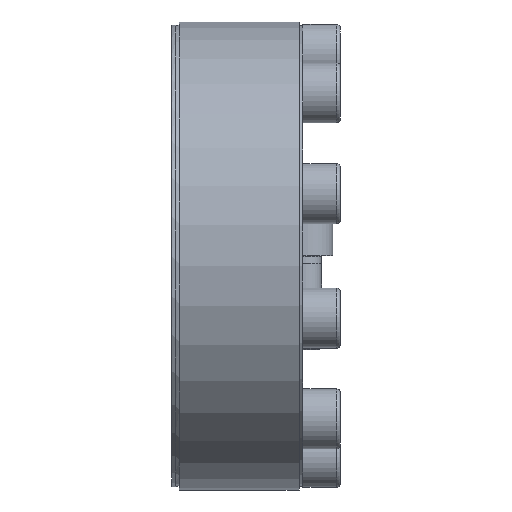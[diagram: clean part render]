
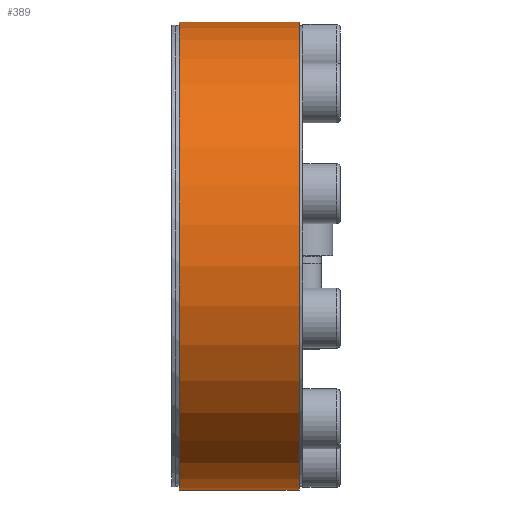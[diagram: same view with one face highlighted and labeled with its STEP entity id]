
A CAD part, left-side view. The second image highlights one B-rep face of the part: STEP entity #389.
In plain terms, the highlighted cylindrical face has radius 62.5 mm (diameter 125 mm), a partial arc.
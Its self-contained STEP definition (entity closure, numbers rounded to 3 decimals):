
#389 = ADVANCED_FACE( '', ( #602 ), #603, .T. );
#602 = FACE_OUTER_BOUND( '', #756, .T. );
#603 = CYLINDRICAL_SURFACE( '', #757, 62.5 );
#756 = EDGE_LOOP( '', ( #935, #936, #937, #938 ) );
#757 = AXIS2_PLACEMENT_3D( '', #939, #940, #941 );
#935 = ORIENTED_EDGE( '', *, *, #1297, .F. );
#936 = ORIENTED_EDGE( '', *, *, #1298, .T. );
#937 = ORIENTED_EDGE( '', *, *, #1299, .T. );
#938 = ORIENTED_EDGE( '', *, *, #1300, .F. );
#939 = CARTESIAN_POINT( '', ( 0., -60., 0. ) );
#940 = DIRECTION( '', ( 0., 1., 0. ) );
#941 = DIRECTION( '', ( 0., 0., -1. ) );
#1297 = EDGE_CURVE( '', #1439, #1440, #1441, .T. );
#1298 = EDGE_CURVE( '', #1439, #1442, #1443, .F. );
#1299 = EDGE_CURVE( '', #1442, #1444, #1445, .T. );
#1300 = EDGE_CURVE( '', #1440, #1444, #1446, .F. );
#1439 = VERTEX_POINT( '', #1557 );
#1440 = VERTEX_POINT( '', #1558 );
#1441 = CIRCLE( '', #1559, 62.5 );
#1442 = VERTEX_POINT( '', #1560 );
#1443 = LINE( '', #1561, #1562 );
#1444 = VERTEX_POINT( '', #1563 );
#1445 = CIRCLE( '', #1564, 62.5 );
#1446 = LINE( '', #1565, #1566 );
#1557 = CARTESIAN_POINT( '', ( 18.121, 1., 59.815 ) );
#1558 = CARTESIAN_POINT( '', ( 20.499, 1., 59.043 ) );
#1559 = AXIS2_PLACEMENT_3D( '', #1724, #1725, #1726 );
#1560 = CARTESIAN_POINT( '', ( 18.121, 33., 59.815 ) );
#1561 = CARTESIAN_POINT( '', ( 18.121, -60., 59.815 ) );
#1562 = VECTOR( '', #1727, 1000. );
#1563 = CARTESIAN_POINT( '', ( 20.499, 33., 59.043 ) );
#1564 = AXIS2_PLACEMENT_3D( '', #1728, #1729, #1730 );
#1565 = CARTESIAN_POINT( '', ( 20.499, -60., 59.043 ) );
#1566 = VECTOR( '', #1731, 1000. );
#1724 = CARTESIAN_POINT( '', ( 0., 1., 0. ) );
#1725 = DIRECTION( '', ( 0., -1., 0. ) );
#1726 = DIRECTION( '', ( 0., 0., -1. ) );
#1727 = DIRECTION( '', ( 0., -1., 0. ) );
#1728 = CARTESIAN_POINT( '', ( 0., 33., 0. ) );
#1729 = DIRECTION( '', ( 0., -1., 0. ) );
#1730 = DIRECTION( '', ( 0., 0., -1. ) );
#1731 = DIRECTION( '', ( 0., -1., 0. ) );
